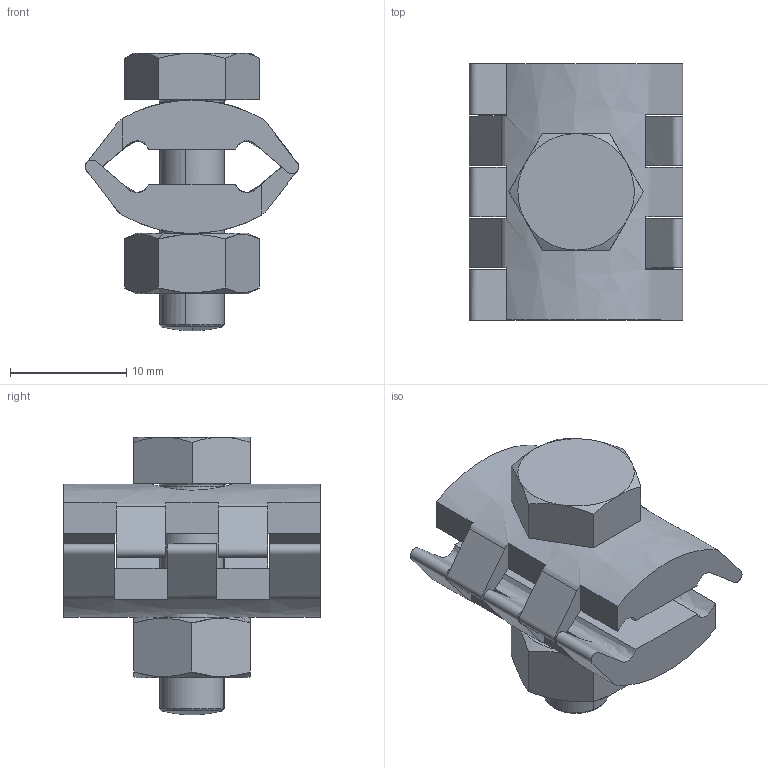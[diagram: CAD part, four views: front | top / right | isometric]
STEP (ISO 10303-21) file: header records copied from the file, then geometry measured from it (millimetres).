
FILE_DESCRIPTION(/* description */ (''),/* implementation_level */ '2;1');
FILE_NAME(/* name */ 'SVZM 2-2',/* time_stamp */ '2012-11-29T22:20:20+01:00',/* author */ (''),/* organization */ (''),/* preprocessor_version */ 'ST-DEVELOPER v10',/* originating_system */ '',/* authorisation */ '');
FILE_SCHEMA (('AUTOMOTIVE_DESIGN_CC2'));
Length unit declared in the file: millimetre
Products named in the file (1): 1
Bounding box: 18.33 x 22 x 23.84 mm (x, y, z)
Surface area: 3004.2 mm2 (no closed solid volume)
Topology: 0 solids, 69 shells, 80 faces, 346 edges, 325 vertices
Faces by surface type: plane 48, bspline 32
Entity records: 7734 total; most frequent: CARTESIAN_POINT 5358, ORIENTED_EDGE 364, EDGE_CURVE 342, VERTEX_POINT 321, B_SPLINE_CURVE_WITH_KNOTS 209, EDGE_LOOP 91, ADVANCED_FACE 80, FACE_OUTER_BOUND 80
